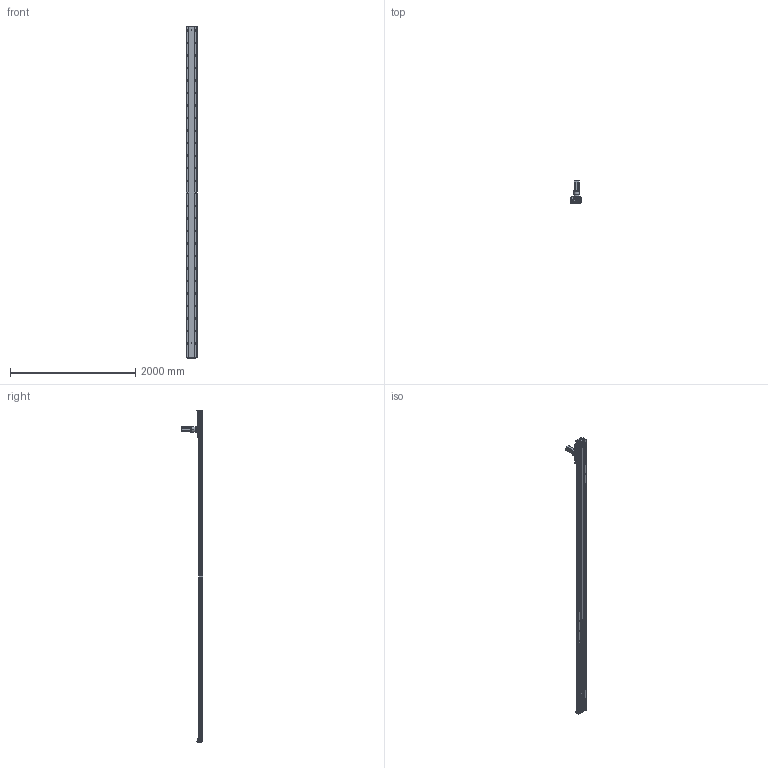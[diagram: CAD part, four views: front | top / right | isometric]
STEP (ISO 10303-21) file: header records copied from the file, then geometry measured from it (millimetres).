
FILE_DESCRIPTION (( 'STEP AP203' ), '1' );
FILE_NAME ('RY170-C-1000-UK.SLDASM_4800.step', '2021-03-03T00:51:18', ( '盈信电脑' ), ( '东莞市道滘镇水果街19号' ), 'SwSTEP 2.0', 'SolidWorks 2012', '' );
FILE_SCHEMA (( 'CONFIG_CONTROL_DESIGN' ));
Length unit declared in the file: millimetre
Products named in the file (13): RY170-C-1000-UK.SLDASM_4800; RY170-喘沭賑輸; TF080等撰; 左旋斜齿齿轮_M2_22齿_内孔20; RY170-喘沭滅袉蝶輸; 怢湛750W萇儂ㄗ80遺ㄘ; 覜茼ん672; RY170-喘謫萇儂覃誹啣; RY170外置感应片(200共用）; RY170綴裔啣ㄗ蜊秶ㄘ; 絳寢賑輸EGH20CA; RY170-1000齿条模组型材底座_4800; RY170-1000-喘沭耀郪絳寢EGH20CA_4800
Assembly tree (22 placements, depth 2):
  RY170-C-1000-UK.SLDASM_4800
    RY170-1000齿条模组型材底座_4800
    絳寢賑輸EGH20CA  x6
    RY170-1000-喘沭耀郪絳寢EGH20CA_4800  x2
    RY170綴裔啣ㄗ蜊秶ㄘ  x2
    覜茼ん672  x3
    RY170外置感应片(200共用）
    RY170-喘謫萇儂覃誹啣
    怢湛750W萇儂ㄗ80遺ㄘ
    RY170-喘沭滅袉蝶輸  x2
    TF080等撰
    左旋斜齿齿轮_M2_22齿_内孔20
    RY170-喘沭賑輸
Bounding box: 188.7 x 343.5 x 5300 mm (x, y, z)
Volume: 24685073.4 mm3; surface area: 6566929.7 mm2
Topology: 24 solids, 24 shells, 5845 faces, 16896 edges, 10689 vertices
Faces by surface type: cylinder 2650, plane 2579, cone 562, bspline 50, torus 4
Entity records: 141682 total; most frequent: CARTESIAN_POINT 36197, ORIENTED_EDGE 22430, DIRECTION 21318, EDGE_CURVE 11215, AXIS2_PLACEMENT_3D 8067, VERTEX_POINT 7281, LINE 5184, VECTOR 5184
